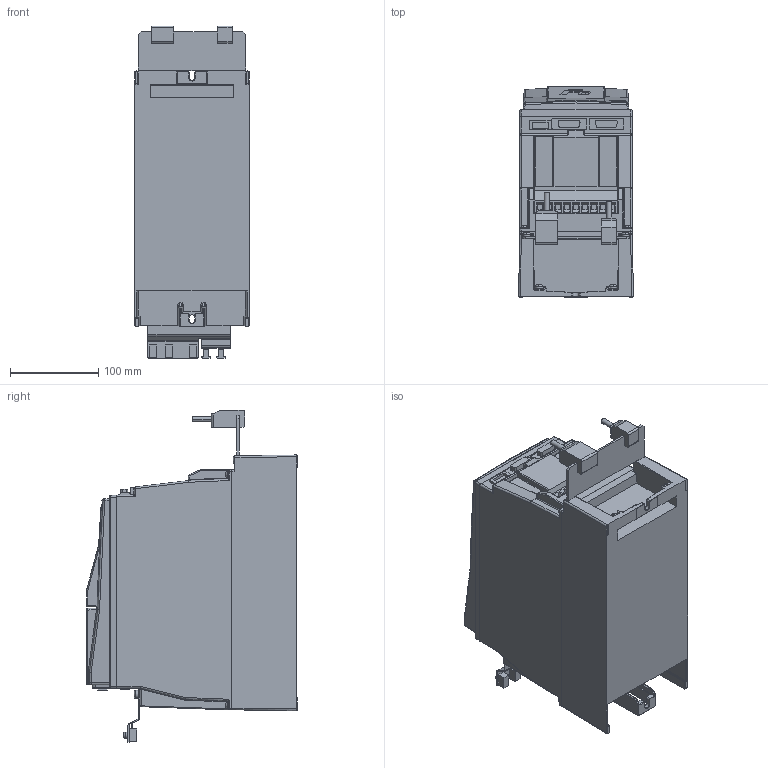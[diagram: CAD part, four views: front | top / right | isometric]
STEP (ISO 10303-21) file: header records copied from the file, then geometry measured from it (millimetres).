
FILE_DESCRIPTION (( 'STEP AP214' ), '1' );
FILE_NAME ('F6-2TR0-P151.STEP', '2020-11-30T13:22:32', ( '' ), ( '' ), 'SwSTEP 2.0', 'SolidWorks 2019', '' );
FILE_SCHEMA (( 'AUTOMOTIVE_DESIGN' ));
Length unit declared in the file: millimetre
Products named in the file (1): F6-2TR0-P151
Bounding box: 130 x 238.4 x 376.5 mm (x, y, z)
Volume: 7093696.9 mm3; surface area: 331936.5 mm2
Topology: 4 solids, 4 shells, 1531 faces, 3802 edges, 2273 vertices
Faces by surface type: plane 694, cylinder 443, bspline 245, torus 65, sphere 60, cone 24
Entity records: 52868 total; most frequent: CARTESIAN_POINT 18861, ORIENTED_EDGE 7460, DIRECTION 6476, EDGE_CURVE 3730, VERTEX_POINT 2273, AXIS2_PLACEMENT_3D 2185, VECTOR 2106, LINE 2106
